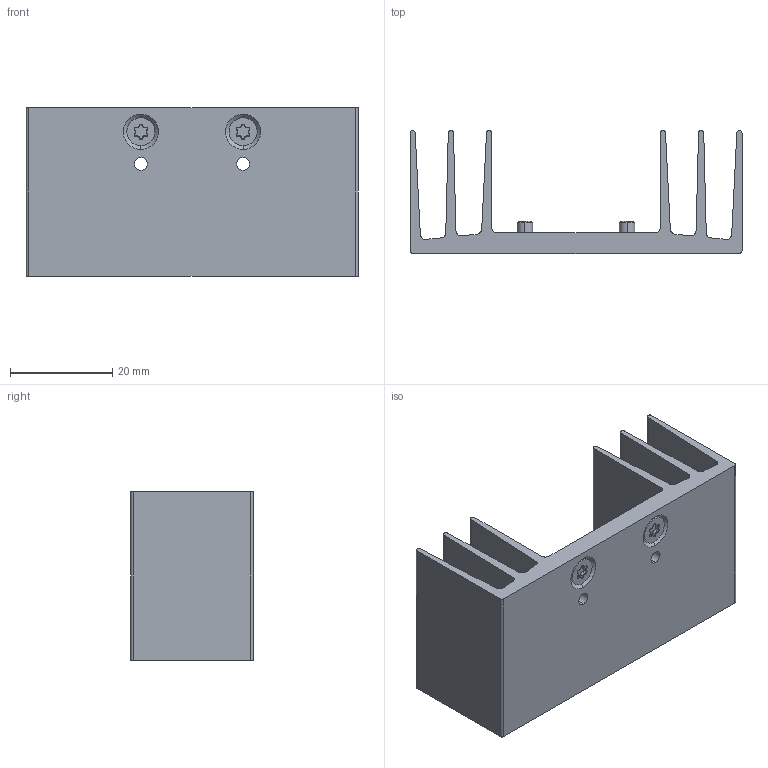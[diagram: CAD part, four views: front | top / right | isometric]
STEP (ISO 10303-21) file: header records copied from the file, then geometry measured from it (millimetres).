
FILE_DESCRIPTION (( 'STEP AP214' ), '1' );
FILE_NAME ('21814 - Alvium G1 heatsink set.STEP', '2026-07-16T08:22:44', ( '' ), ( '' ), 'SwSTEP 2.0', 'SolidWorks 2025', '' );
FILE_SCHEMA (( 'AUTOMOTIVE_DESIGN' ));
Length unit declared in the file: millimetre
Products named in the file (3): ISO14581 DIN965 Senkschraube ISR M3x6_19703_M3 - L6 - 19703; 21814 - Alvium G1 heatsink set; 20858 - Alvium Kühlkörper G1
Assembly tree (3 placements, depth 2):
  21814 - Alvium G1 heatsink set
    20858 - Alvium Kühlkörper G1
    ISO14581 DIN965 Senkschraube ISR M3x6_19703_M3 - L6 - 19703  x2
Bounding box: 65 x 24.03 x 33 mm (x, y, z)
Volume: 14001.3 mm3; surface area: 13414.3 mm2
Topology: 3 solids, 3 shells, 136 faces, 344 edges, 216 vertices
Faces by surface type: cylinder 64, torus 34, plane 26, cone 12
Entity records: 3029 total; most frequent: DIRECTION 575, CARTESIAN_POINT 495, ORIENTED_EDGE 484, EDGE_CURVE 242, AXIS2_PLACEMENT_3D 234, VERTEX_POINT 154, CIRCLE 135, VECTOR 107
